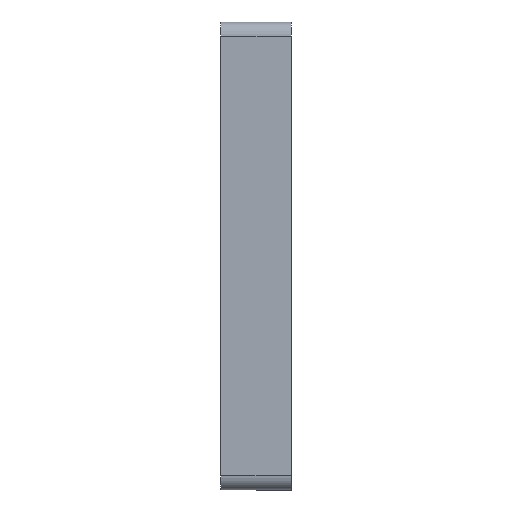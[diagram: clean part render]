
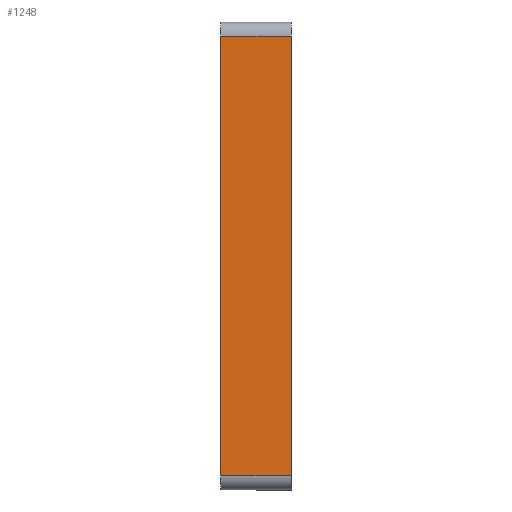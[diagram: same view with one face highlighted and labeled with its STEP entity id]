
A CAD part, front view. The second image highlights one B-rep face of the part: STEP entity #1248.
In plain terms, the highlighted planar face has unit normal (0, -1, 0).
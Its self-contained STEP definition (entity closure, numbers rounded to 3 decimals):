
#55 = VERTEX_POINT ( 'NONE', #871 ) ;
#94 = EDGE_CURVE ( 'NONE', #1169, #55, #1198, .T. ) ;
#191 = DIRECTION ( 'NONE',  ( 0., 0., 1. ) ) ;
#250 = EDGE_LOOP ( 'NONE', ( #626, #560, #863, #1094 ) ) ;
#261 = CARTESIAN_POINT ( 'NONE',  ( 0.5, -1.2, 9.3 ) ) ;
#296 = PLANE ( 'NONE',  #1310 ) ;
#394 = VECTOR ( 'NONE', #1175, 1000. ) ;
#396 = CARTESIAN_POINT ( 'NONE',  ( 0., -1.2, -9.3 ) ) ;
#439 = VECTOR ( 'NONE', #1045, 1000. ) ;
#472 = DIRECTION ( 'NONE',  ( 0., 0., 1. ) ) ;
#560 = ORIENTED_EDGE ( 'NONE', *, *, #814, .T. ) ;
#571 = CARTESIAN_POINT ( 'NONE',  ( 0.5, -1.2, -9.3 ) ) ;
#575 = VERTEX_POINT ( 'NONE', #261 ) ;
#602 = DIRECTION ( 'NONE',  ( 1., 0., 0. ) ) ;
#626 = ORIENTED_EDGE ( 'NONE', *, *, #94, .T. ) ;
#662 = CARTESIAN_POINT ( 'NONE',  ( -2.5, -1.2, 9.3 ) ) ;
#710 = VECTOR ( 'NONE', #191, 1000. ) ;
#777 = VERTEX_POINT ( 'NONE', #571 ) ;
#793 = LINE ( 'NONE', #1311, #710 ) ;
#814 = EDGE_CURVE ( 'NONE', #55, #777, #1291, .T. ) ;
#837 = VECTOR ( 'NONE', #602, 1000. ) ;
#838 = EDGE_CURVE ( 'NONE', #777, #575, #793, .T. ) ;
#863 = ORIENTED_EDGE ( 'NONE', *, *, #838, .T. ) ;
#871 = CARTESIAN_POINT ( 'NONE',  ( -2.5, -1.2, -9.3 ) ) ;
#901 = CARTESIAN_POINT ( 'NONE',  ( 0., -1.2, 0. ) ) ;
#1014 = EDGE_CURVE ( 'NONE', #575, #1169, #1142, .T. ) ;
#1045 = DIRECTION ( 'NONE',  ( -1., 0., 0. ) ) ;
#1091 = FACE_OUTER_BOUND ( 'NONE', #250, .T. ) ;
#1094 = ORIENTED_EDGE ( 'NONE', *, *, #1014, .T. ) ;
#1137 = CARTESIAN_POINT ( 'NONE',  ( 0., -1.2, 9.3 ) ) ;
#1142 = LINE ( 'NONE', #1137, #439 ) ;
#1169 = VERTEX_POINT ( 'NONE', #662 ) ;
#1175 = DIRECTION ( 'NONE',  ( 0., 0., -1. ) ) ;
#1182 = CARTESIAN_POINT ( 'NONE',  ( -2.5, -1.2, -9.9 ) ) ;
#1198 = LINE ( 'NONE', #1182, #394 ) ;
#1204 = DIRECTION ( 'NONE',  ( 0., 1., 0. ) ) ;
#1248 = ADVANCED_FACE ( 'NONE', ( #1091 ), #296, .F. ) ;
#1291 = LINE ( 'NONE', #396, #837 ) ;
#1310 = AXIS2_PLACEMENT_3D ( 'NONE', #901, #1204, #472 ) ;
#1311 = CARTESIAN_POINT ( 'NONE',  ( 0.5, -1.2, -9.9 ) ) ;
